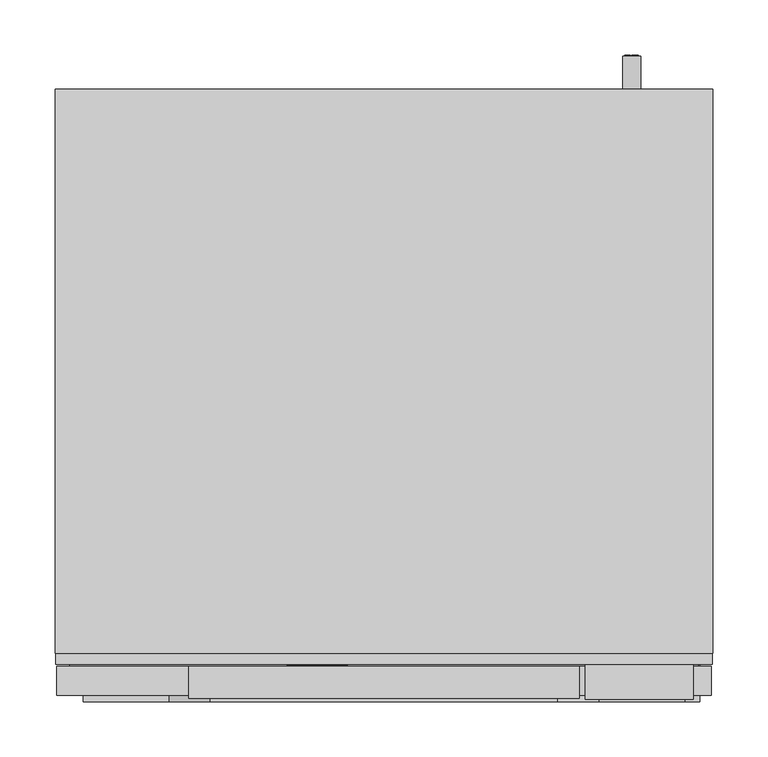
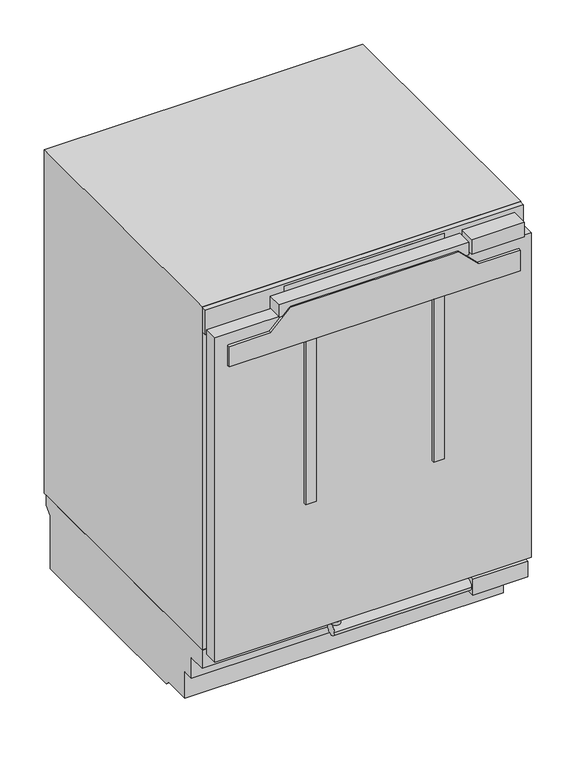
"""IFC4 building model written with IfcOpenShell, lengths in millimetres: proxy geometry, 12519130_EU1_KU7035D : 36703510_EU1_12519130_KU7035D."""

from ifc_helpers import new_model, si_unit, point, frame, frame_2d, origin, origin_with_axes, place, context, project, spatial, polyline, circle_curve, ellipse_curve, trimmed, segment, composite_curve, outline, extrude, faceted_brep, source, transform, mapped, element, save
from ifc_brep_helpers import plane_surface, cylinder_surface, revolved_surface, extruded_surface, advanced_brep


def specialty_equipment_a0025fa9(model_context):
    return source(origin(), model_context, "Body", "SolidModel", [
        extrude(outline(polyline([(795.9349293, -88.017), (795.9349293, -86.928), (789.9139293, -86.928), (789.9139293, -88.017), (788.4019293, -88.017), (788.4019293, -84.057), (789.9139293, -84.057), (789.9139293, -85.137), (793.7360541, -85.137), (788.4019293, -81.114), (793.8421516, -77.073), (789.9139293, -77.073), (789.9139293, -78.18), (788.4019293, -78.18), (788.4019293, -70.998), (789.9139293, -70.998), (789.9139293, -72.141), (795.9349293, -72.141), (795.9349293, -70.998), (797.4019293, -70.998), (797.4019293, -76.479), (794.0269293, -79.107), (797.4019293, -81.744), (797.4019293, -88.017), (795.9349293, -88.017)])), frame((0.0, 33.1, 0.0), z_axis=(0.0, 1.0, 0.0), x_axis=(0.0, 0.0, 1.0)), (0.0, 0.0, 1.0), 1.0),
        extrude(outline(polyline([(795.9349293, -51.495), (795.9349293, -50.415), (789.9139293, -50.415), (789.9139293, -51.495), (788.4019293, -51.495), (788.4019293, -44.196), (789.9139293, -44.196), (789.9139293, -45.303), (797.4019293, -45.303), (797.4019293, -51.495), (795.9349293, -51.495)])), frame((0.0, 33.1, 0.0), z_axis=(0.0, 1.0, 0.0), x_axis=(0.0, 0.0, 1.0)), (0.0, 0.0, 1.0), 1.0),
        extrude(outline(polyline([(796.8709293, -67.857), (795.4129293, -67.173), (796.8349293, -64.122), (798.2929293, -64.797), (796.8709293, -67.857)])), frame((0.0, 33.1, 0.0), z_axis=(0.0, 1.0, 0.0), x_axis=(0.0, 0.0, 1.0)), (0.0, 0.0, 1.0), 1.0),
        extrude(outline(polyline([(795.2149293, -70.08), (793.6039293, -70.08), (793.6039293, -69.009), (789.9139293, -69.009), (789.9139293, -70.08), (788.4019293, -70.08), (788.4019293, -62.979), (789.9139293, -62.979), (789.9139293, -64.023), (795.2149293, -64.023), (795.2149293, -70.08)])), frame((0.0, 33.1, 0.0), z_axis=(0.0, 1.0, 0.0), x_axis=(0.0, 0.0, 1.0)), (0.0, 0.0, 1.0), 1.0),
        advanced_brep(
        [(-58.02, 33.1, 790.5349293), (-58.02, 33.1, 791.4439293), (-51.999, 33.1, 791.4439293), (-62.475, 33.1, 791.4439293), (-60.0, 33.1, 788.4019293), (-52.152, 33.1, 790.5349293), (-54.87, 33.1, 790.5349293), (-57.012, 33.1, 789.5269293), (-58.02, 33.1, 792.5959293), (-58.02, 33.1, 793.5769293), (-56.481, 33.1, 793.5769293), (-56.481, 33.1, 792.5959293), (-58.02, 34.1, 790.5349293), (-57.012, 34.1, 789.5269293), (-54.87, 34.1, 790.5349293), (-52.152, 34.1, 790.5349293), (-60.0, 34.1, 788.4019293), (-62.475, 34.1, 791.4439293), (-51.999, 34.1, 791.4439293), (-58.02, 34.1, 791.4439293), (-58.02, 34.1, 792.5959293), (-56.481, 34.1, 792.5959293), (-56.481, 34.1, 793.5769293), (-58.02, 34.1, 793.5769293)],
        [
            (0, 1),
            (1, 2),
            (2, 3, ellipse_curve(frame((-57.237, 33.1, 791.4439293), z_axis=(0.0, -1.0, 0.0), x_axis=(-1.0, 0.0, 0.0)), 5.238, 4.329)),
            (3, 4, circle_curve(frame((-58.9919509, 33.1, 791.7499293), z_axis=(0.0, -1.0, 0.0), x_axis=(0.0, 0.0, -1.0)), 3.4964649)),
            (4, 5, circle_curve(frame((-57.3418572, 33.1, 794.1259293), z_axis=(0.0, -1.0, 0.0), x_axis=(0.0, 0.0, -1.0)), 6.3110933)),
            (5, 6),
            (6, 7, circle_curve(frame((-56.5720588, 33.1, 791.3719293), z_axis=(0.0, 1.0, 0.0), x_axis=(0.0, 0.0, -1.0)), 1.896727)),
            (7, 0, circle_curve(frame((-57.012, 33.1, 790.5349293), z_axis=(0.0, 1.0, 0.0), x_axis=(0.0, 0.0, -1.0)), 1.008)),
            (8, 9),
            (9, 10, circle_curve(frame((-57.2505, 33.1, 793.5769293), z_axis=(0.0, 1.0, 0.0), x_axis=(0.0, 0.0, -1.0)), 0.7695)),
            (10, 11),
            (11, 8),
            (12, 13, circle_curve(frame((-57.012, 34.1, 790.5349293), z_axis=(0.0, -1.0, 0.0), x_axis=(0.0, 0.0, -1.0)), 1.008)),
            (13, 14, circle_curve(frame((-56.5720588, 34.1, 791.3719293), z_axis=(0.0, -1.0, 0.0), x_axis=(0.0, 0.0, -1.0)), 1.896727)),
            (14, 15),
            (15, 16, circle_curve(frame((-57.3418572, 34.1, 794.1259293), z_axis=(0.0, 1.0, 0.0), x_axis=(0.0, 0.0, -1.0)), 6.3110933)),
            (16, 17, circle_curve(frame((-58.9919509, 34.1, 791.7499293), z_axis=(0.0, 1.0, 0.0), x_axis=(0.0, 0.0, -1.0)), 3.4964649)),
            (17, 18, ellipse_curve(frame((-57.237, 34.1, 791.4439293), z_axis=(0.0, 1.0, 0.0), x_axis=(-1.0, 0.0, 0.0)), 5.238, 4.329)),
            (18, 19),
            (19, 12),
            (20, 21),
            (21, 22),
            (22, 23, circle_curve(frame((-57.2505, 34.1, 793.5769293), z_axis=(0.0, -1.0, 0.0), x_axis=(0.0, 0.0, -1.0)), 0.7695)),
            (23, 20),
            (0, 12),
            (19, 1),
            (18, 2),
            (5, 15),
            (14, 6),
            (17, 3),
            (13, 7),
            (16, 4),
            (8, 20),
            (23, 9),
            (22, 10),
            (21, 11),
        ],
        [
            plane_surface(frame((-58.02, 33.1, 791.4439293), z_axis=(0.0, -1.0, 0.0), x_axis=(0.0, 0.0, 1.0))),
            plane_surface(frame((-58.02, 34.1, 791.4439293), z_axis=(0.0, 1.0, 0.0), x_axis=(0.0, 0.0, -1.0))),
            plane_surface(frame((-58.02, 33.1, 790.5349293), z_axis=(1.0, 0.0, 0.0), x_axis=(0.0, 1.0, 0.0))),
            plane_surface(frame((-58.02, 33.1, 791.4439293), z_axis=(0.0, 0.0, -1.0), x_axis=(0.0, 1.0, 0.0))),
            plane_surface(frame((-52.152, 33.1, 790.5349293), z_axis=(0.0, 0.0, 1.0), x_axis=(0.0, 1.0, 0.0))),
            extruded_surface(trimmed(ellipse_curve(frame((-57.237, 35.1, 791.4439293), z_axis=(0.0, -1.0, 0.0), x_axis=(-1.0, 0.0, 0.0)), 5.238, 4.329), [point((-51.999, 35.1, 791.4439293))], [point((-62.475, 35.1, 791.4439293))], True, "CARTESIAN"), (0.0, -1.0, 0.0), 1.0),
            revolved_surface(polyline([(-56.5720588, 34.1, 789.4752023), (-56.5720588, 33.1, 789.4752023)]), (-56.5720588, 34.1, 791.3719293), (0.0, 1.0, 0.0)),
            revolved_surface(polyline([(-57.012, 34.1, 789.5269293), (-57.012, 33.1, 789.5269293)]), (-57.012, 34.1, 790.5349293), (0.0, 1.0, 0.0)),
            cylinder_surface(frame((-58.9919509, 34.1, 791.7499293), z_axis=(0.0, -1.0, 0.0), x_axis=(0.0, 0.0, -1.0)), 3.4964649),
            cylinder_surface(frame((-57.3418572, 34.1, 794.1259293), z_axis=(0.0, -1.0, 0.0), x_axis=(0.0, 0.0, -1.0)), 6.3110933),
            plane_surface(frame((-58.02, 33.1, 792.5959293), z_axis=(1.0, 0.0, 0.0), x_axis=(0.0, 1.0, 0.0))),
            revolved_surface(polyline([(-57.2505, 34.1, 792.8074293), (-57.2505, 33.1, 792.8074293)]), (-57.2505, 34.1, 793.5769293), (0.0, 1.0, 0.0)),
            plane_surface(frame((-56.481, 33.1, 793.5769293), z_axis=(-1.0, 0.0, 0.0), x_axis=(0.0, 1.0, 0.0))),
            plane_surface(frame((-56.481, 33.1, 792.5959293), z_axis=(0.0, 0.0, 1.0), x_axis=(0.0, 1.0, 0.0))),
        ],
        [
            (0, [[1, 2, 3, 4, 5, 6, 7, 8], [9, 10, 11, 12]]),
            (1, [[13, 14, 15, 16, 17, 18, 19, 20], [21, 22, 23, 24]]),
            (2, [[-1, 25, -20, 26]]),
            (3, [[-2, -26, -19, 27]]),
            (4, [[-6, 28, -15, 29]]),
            (5, [[-3, -27, -18, 30]]),
            (6, [[-7, -29, -14, 31]]),
            (7, [[-8, -31, -13, -25]]),
            (8, [[-4, -30, -17, 32]]),
            (9, [[-5, -32, -16, -28]]),
            (10, [[-9, 33, -24, 34]]),
            (11, [[-10, -34, -23, 35]]),
            (12, [[-11, -35, -22, 36]]),
            (13, [[-12, -36, -21, -33]]),
        ],
    ),
        advanced_brep(
        [(-39.237, 33.1, 790.5349293), (-39.237, 33.1, 791.4439293), (-33.216, 33.1, 791.4439293), (-43.692, 33.1, 791.4439293), (-41.217, 33.1, 788.4019293), (-33.369, 33.1, 790.5349293), (-36.087, 33.1, 790.5349293), (-38.229, 33.1, 789.5269293), (-39.237, 33.1, 792.5959293), (-39.237, 33.1, 793.5769293), (-37.698, 33.1, 793.5769293), (-37.698, 33.1, 792.5959293), (-39.237, 34.1, 790.5349293), (-38.229, 34.1, 789.5269293), (-36.087, 34.1, 790.5349293), (-33.369, 34.1, 790.5349293), (-41.217, 34.1, 788.4019293), (-43.692, 34.1, 791.4439293), (-33.216, 34.1, 791.4439293), (-39.237, 34.1, 791.4439293), (-39.237, 34.1, 792.5959293), (-37.698, 34.1, 792.5959293), (-37.698, 34.1, 793.5769293), (-39.237, 34.1, 793.5769293)],
        [
            (0, 1),
            (1, 2),
            (2, 3, ellipse_curve(frame((-38.454, 33.1, 791.4439293), z_axis=(0.0, -1.0, 0.0), x_axis=(-1.0, 0.0, 0.0)), 5.238, 4.329)),
            (3, 4, circle_curve(frame((-40.2089509, 33.1, 791.7499293), z_axis=(0.0, -1.0, 0.0), x_axis=(0.0, 0.0, -1.0)), 3.4964649)),
            (4, 5, circle_curve(frame((-38.5588572, 33.1, 794.1259293), z_axis=(0.0, -1.0, 0.0), x_axis=(0.0, 0.0, -1.0)), 6.3110933)),
            (5, 6),
            (6, 7, circle_curve(frame((-37.7890588, 33.1, 791.3719293), z_axis=(0.0, 1.0, 0.0), x_axis=(0.0, 0.0, -1.0)), 1.896727)),
            (7, 0, circle_curve(frame((-38.229, 33.1, 790.5349293), z_axis=(0.0, 1.0, 0.0), x_axis=(0.0, 0.0, -1.0)), 1.008)),
            (8, 9),
            (9, 10, circle_curve(frame((-38.4675, 33.1, 793.5769293), z_axis=(0.0, 1.0, 0.0), x_axis=(0.0, 0.0, -1.0)), 0.7695)),
            (10, 11),
            (11, 8),
            (12, 13, circle_curve(frame((-38.229, 34.1, 790.5349293), z_axis=(0.0, -1.0, 0.0), x_axis=(0.0, 0.0, -1.0)), 1.008)),
            (13, 14, circle_curve(frame((-37.7890588, 34.1, 791.3719293), z_axis=(0.0, -1.0, 0.0), x_axis=(0.0, 0.0, -1.0)), 1.896727)),
            (14, 15),
            (15, 16, circle_curve(frame((-38.5588572, 34.1, 794.1259293), z_axis=(0.0, 1.0, 0.0), x_axis=(0.0, 0.0, -1.0)), 6.3110933)),
            (16, 17, circle_curve(frame((-40.2089509, 34.1, 791.7499293), z_axis=(0.0, 1.0, 0.0), x_axis=(0.0, 0.0, -1.0)), 3.4964649)),
            (17, 18, ellipse_curve(frame((-38.454, 34.1, 791.4439293), z_axis=(0.0, 1.0, 0.0), x_axis=(-1.0, 0.0, 0.0)), 5.238, 4.329)),
            (18, 19),
            (19, 12),
            (20, 21),
            (21, 22),
            (22, 23, circle_curve(frame((-38.4675, 34.1, 793.5769293), z_axis=(0.0, -1.0, 0.0), x_axis=(0.0, 0.0, -1.0)), 0.7695)),
            (23, 20),
            (0, 12),
            (19, 1),
            (18, 2),
            (5, 15),
            (14, 6),
            (17, 3),
            (13, 7),
            (16, 4),
            (8, 20),
            (23, 9),
            (22, 10),
            (21, 11),
        ],
        [
            plane_surface(frame((-39.237, 33.1, 791.4439293), z_axis=(0.0, -1.0, 0.0), x_axis=(0.0, 0.0, 1.0))),
            plane_surface(frame((-39.237, 34.1, 791.4439293), z_axis=(0.0, 1.0, 0.0), x_axis=(0.0, 0.0, -1.0))),
            plane_surface(frame((-39.237, 33.1, 790.5349293), z_axis=(1.0, 0.0, 0.0), x_axis=(0.0, 1.0, 0.0))),
            plane_surface(frame((-39.237, 33.1, 791.4439293), z_axis=(0.0, 0.0, -1.0), x_axis=(0.0, 1.0, 0.0))),
            plane_surface(frame((-33.369, 33.1, 790.5349293), z_axis=(0.0, 0.0, 1.0), x_axis=(0.0, 1.0, 0.0))),
            extruded_surface(trimmed(ellipse_curve(frame((-38.454, 35.1, 791.4439293), z_axis=(0.0, -1.0, 0.0), x_axis=(-1.0, 0.0, 0.0)), 5.238, 4.329), [point((-33.216, 35.1, 791.4439293))], [point((-43.692, 35.1, 791.4439293))], True, "CARTESIAN"), (0.0, -1.0, 0.0), 1.0),
            revolved_surface(polyline([(-37.7890588, 34.1, 789.4752023), (-37.7890588, 33.1, 789.4752023)]), (-37.7890588, 34.1, 791.3719293), (0.0, 1.0, 0.0)),
            revolved_surface(polyline([(-38.229, 34.1, 789.5269293), (-38.229, 33.1, 789.5269293)]), (-38.229, 34.1, 790.5349293), (0.0, 1.0, 0.0)),
            cylinder_surface(frame((-40.2089509, 34.1, 791.7499293), z_axis=(0.0, -1.0, 0.0), x_axis=(0.0, 0.0, -1.0)), 3.4964649),
            cylinder_surface(frame((-38.5588572, 34.1, 794.1259293), z_axis=(0.0, -1.0, 0.0), x_axis=(0.0, 0.0, -1.0)), 6.3110933),
            plane_surface(frame((-39.237, 33.1, 792.5959293), z_axis=(1.0, 0.0, 0.0), x_axis=(0.0, 1.0, 0.0))),
            revolved_surface(polyline([(-38.4675, 34.1, 792.8074293), (-38.4675, 33.1, 792.8074293)]), (-38.4675, 34.1, 793.5769293), (0.0, 1.0, 0.0)),
            plane_surface(frame((-37.698, 33.1, 793.5769293), z_axis=(-1.0, 0.0, 0.0), x_axis=(0.0, 1.0, 0.0))),
            plane_surface(frame((-37.698, 33.1, 792.5959293), z_axis=(0.0, 0.0, 1.0), x_axis=(0.0, 1.0, 0.0))),
        ],
        [
            (0, [[1, 2, 3, 4, 5, 6, 7, 8], [9, 10, 11, 12]]),
            (1, [[13, 14, 15, 16, 17, 18, 19, 20], [21, 22, 23, 24]]),
            (2, [[-1, 25, -20, 26]]),
            (3, [[-2, -26, -19, 27]]),
            (4, [[-6, 28, -15, 29]]),
            (5, [[-3, -27, -18, 30]]),
            (6, [[-7, -29, -14, 31]]),
            (7, [[-8, -31, -13, -25]]),
            (8, [[-4, -30, -17, 32]]),
            (9, [[-5, -32, -16, -28]]),
            (10, [[-9, 33, -24, 34]]),
            (11, [[-10, -34, -23, 35]]),
            (12, [[-11, -35, -22, 36]]),
            (13, [[-12, -36, -21, -33]]),
        ],
    ),
        extrude(outline(polyline([(150.0048218, 34.0937347), (-150.0048218, 34.0937347), (-150.0048218, 44.0), (150.0048218, 44.0), (150.0048218, 34.0937347)])), frame((0.0, 0.0, 773.2139282), z_axis=(0.0, 0.0, 1.0), x_axis=(1.0, 0.0, 0.0)), (0.0, 0.0, 1.0), 39.9850464),
        extrude(outline(polyline([(817.6989746, 298.0), (817.6989746, -298.0), (768.7051238, -298.0), (768.7051238, 298.0), (817.6989746, 298.0)]), holes=[polyline([(813.1989746, -150.0048218), (813.1989746, 150.0048218), (773.2139282, 150.0048218), (773.2139282, -150.0048218), (813.1989746, -150.0048218)])]), frame((0.0, 34.0937347, 0.0), z_axis=(0.0, 1.0, 0.0), x_axis=(0.0, 0.0, 1.0)), (0.0, 0.0, 1.0), 9.9062653),
        faceted_brep([(-298.5, 550.1, 137.8999939), (-298.5, 550.1, 117.6051112), (-298.5, 537.6, 105.1051112), (-298.5, 537.6, 0.0), (-298.5, 161.2567793, 0.0), (-298.5, 152.9391747, 8.3176046), (-298.5, 100.0, 8.3176046), (-298.5, 100.0, 60.7725754), (-298.5, 79.0216446, 60.7725754), (-298.5, 79.0216446, 101.8184894), (-298.5, 44.0, 101.8184894), (-298.5, 44.0, 137.8999939), (298.5, 550.1, 137.8999939), (298.5, 44.0, 137.8999939), (298.5, 44.0, 101.8184894), (298.5, 79.0216446, 101.8184894), (298.5, 79.0216446, 60.7725754), (298.5, 100.0, 60.7725754), (298.5, 100.0, 8.3176046), (298.5, 152.9391747, 8.3176046), (298.5, 161.2567793, 0.0), (298.5, 537.6, 0.0), (298.5, 537.6, 105.1051112), (298.5, 550.1, 117.6051112), (296.7000122, 463.8596389, 0.0), (256.5957336, 463.8596389, 0.0), (256.5957336, 399.1975098, 0.0), (296.7000122, 399.1975098, 0.0), (-296.7000122, 463.8596389, 0.0), (-296.7000122, 399.1975098, 0.0), (-256.5957336, 399.1975098, 0.0), (-256.5957336, 463.8596389, 0.0), (296.7000122, 463.8596389, 8.7371401), (296.7000122, 399.1975098, 8.7371401), (256.5957336, 399.1975098, 8.7371401), (256.5957336, 463.8596389, 8.7371401), (-296.7000122, 463.8596389, 8.7371401), (-256.5957336, 463.8596389, 8.7371401), (-256.5957336, 399.1975098, 8.7371401), (-296.7000122, 399.1975098, 8.7371401)], [[[0, 1, 2, 3, 4, 5, 6, 7, 8, 9, 10, 11]], [[12, 13, 14, 15, 16, 17, 18, 19, 20, 21, 22, 23]], [[0, 11, 13, 12]], [[11, 10, 14, 13]], [[10, 9, 15, 14]], [[9, 8, 16, 15]], [[8, 7, 17, 16]], [[7, 6, 18, 17]], [[6, 5, 19, 18]], [[5, 4, 20, 19]], [[4, 3, 21, 20], [24, 25, 26, 27], [28, 29, 30, 31]], [[3, 2, 22, 21]], [[2, 1, 23, 22]], [[1, 0, 12, 23]], [[32, 33, 34, 35]], [[36, 37, 38, 39]], [[32, 35, 25, 24]], [[35, 34, 26, 25]], [[34, 33, 27, 26]], [[33, 32, 24, 27]], [[36, 39, 29, 28]], [[39, 38, 30, 29]], [[38, 37, 31, 30]], [[37, 36, 28, 31]]]),
        faceted_brep([(298.5, 44.0, 819.0), (298.5, 44.0, 137.8999939), (298.5, 556.2, 137.8999939), (298.5, 556.2, 819.0), (-298.5, 44.0, 819.0), (-298.5, 556.2, 819.0), (-298.5, 556.2, 137.8999939), (-298.5, 44.0, 137.8999939), (263.0, 44.0, 719.0), (263.0, 44.0, 150.0), (-263.0, 44.0, 150.0), (-263.0, 44.0, 719.0), (263.0, 510.8638012, 150.0), (263.0, 510.8638012, 719.0), (-263.0, 510.8638012, 719.0), (-263.0, 510.8638012, 150.0)], [[[0, 1, 2, 3]], [[4, 5, 6, 7]], [[1, 0, 4, 7], [8, 9, 10, 11]], [[2, 1, 7, 6]], [[3, 2, 6, 5]], [[0, 3, 5, 4]], [[12, 13, 14, 15]], [[13, 12, 9, 8]], [[14, 13, 8, 11]], [[15, 14, 11, 10]], [[12, 15, 10, 9]]]),
        extrude(outline(polyline([(263.0, 510.8638012), (263.0, 339.3), (-263.0, 339.3), (-263.0, 510.8638012), (263.0, 510.8638012)])), frame((0.0, 0.0, 150.0), z_axis=(0.0, 0.0, 1.0), x_axis=(1.0, 0.0, 0.0)), (0.0, 0.0, 1.0), 71.8999939),
        extrude(outline(composite_curve([segment(trimmed(circle_curve(frame_2d((-270.8532135, 136.0)), 15.7049948), [point((-286.5582083, 136.0))], [point((-255.1482187, 136.0))], False, "CARTESIAN"), True, "CONTINUOUS"), segment(trimmed(circle_curve(frame_2d((-270.8532135, 136.0)), 15.7049948), [point((-255.1482187, 136.0))], [point((-286.5582083, 136.0))], False, "CARTESIAN"), True, "CONTINUOUS")], self_intersect=False)), origin_with_axes(), (0.0, 0.0, 1.0), 8.3176046),
        extrude(outline(composite_curve([segment(trimmed(circle_curve(frame_2d((270.8532135, 136.0)), 15.7049948), [point((286.5582083, 136.0))], [point((255.1482187, 136.0))], False, "CARTESIAN"), True, "CONTINUOUS"), segment(trimmed(circle_curve(frame_2d((270.8532135, 136.0)), 15.7049948), [point((255.1482187, 136.0))], [point((286.5582083, 136.0))], False, "CARTESIAN"), True, "CONTINUOUS")], self_intersect=False)), origin_with_axes(), (0.0, 0.0, 1.0), 8.3176046),
        extrude(outline(composite_curve([segment(trimmed(circle_curve(frame_2d((-275.822369, 437.7)), 16.0), [point((-291.822369, 437.7))], [point((-259.822369, 437.7))], False, "CARTESIAN"), True, "CONTINUOUS"), segment(trimmed(circle_curve(frame_2d((-275.822369, 437.7)), 16.0), [point((-259.822369, 437.7))], [point((-291.822369, 437.7))], False, "CARTESIAN"), True, "CONTINUOUS")], self_intersect=False)), origin_with_axes(), (0.0, 0.0, 1.0), 8.3176046),
        extrude(outline(composite_curve([segment(trimmed(circle_curve(frame_2d((275.822369, 437.7)), 16.0), [point((259.822369, 437.7))], [point((291.822369, 437.7))], False, "CARTESIAN"), True, "CONTINUOUS"), segment(trimmed(circle_curve(frame_2d((275.822369, 437.7)), 16.0), [point((291.822369, 437.7))], [point((259.822369, 437.7))], False, "CARTESIAN"), True, "CONTINUOUS")], self_intersect=False)), origin_with_axes(), (0.0, 0.0, 1.0), 8.3176046),
        extrude(outline(composite_curve([segment(trimmed(circle_curve(frame_2d((144.2460785, 224.8152695)), 8.0), [point((144.2460785, 216.8152695))], [point((144.2460785, 232.8152695))], False, "CARTESIAN"), True, "CONTINUOUS"), segment(trimmed(circle_curve(frame_2d((144.2460785, 224.8152695)), 8.0), [point((144.2460785, 232.8152695))], [point((144.2460785, 216.8152695))], False, "CARTESIAN"), True, "CONTINUOUS")], self_intersect=False)), frame((0.0, 556.2, 0.0), z_axis=(0.0, 1.0, 0.0), x_axis=(0.0, 0.0, 1.0)), (0.0, 0.0, 1.0), 30.0),
        extrude(outline(polyline([(140.2460785, 230.7170777), (148.2825833, 230.7170777), (148.2825833, 224.9408399), (147.2780202, 224.9408399), (147.2780202, 229.7125146), (144.8921828, 229.7125146), (144.8921828, 225.1919806), (143.8876197, 225.1919806), (143.8876197, 229.7125146), (141.2506416, 229.7125146), (141.2506416, 224.8152695), (140.2460785, 224.8152695), (140.2460785, 230.7170777)])), frame((0.0, 586.2, 0.0), z_axis=(0.0, 1.0, 0.0), x_axis=(0.0, 0.0, 1.0)), (0.0, 0.0, 1.0), 1.0),
        extrude(outline(polyline([(140.2460785, 223.3084248), (148.2825833, 223.3084248), (148.2825833, 222.3038617), (141.2506416, 222.3038617), (141.2506416, 218.2856093), (140.2460785, 218.2856093), (140.2460785, 223.3084248)])), frame((0.0, 586.2, 0.0), z_axis=(0.0, 1.0, 0.0), x_axis=(0.0, 0.0, 1.0)), (0.0, 0.0, 1.0), 1.0),
        extrude(outline(polyline([(280.7999573, 2.0229698), (182.5283813, 2.0229698), (182.5283813, 44.0), (280.7999573, 44.0), (280.7999573, 2.0229698)])), frame((0.0, 0.0, 780.0), z_axis=(0.0, 0.0, 1.0), x_axis=(1.0, 0.0, 0.0)), (0.0, 0.0, 1.0), 28.7067261),
        extrude(outline(polyline([(297.0, 6.0), (-297.0, 6.0), (-297.0, 32.0), (297.0, 32.0), (297.0, 6.0)])), frame((0.0, 0.0, 136.0), z_axis=(0.0, 0.0, 1.0), x_axis=(1.0, 0.0, 0.0)), (0.0, 0.0, 1.0), 644.0),
        extrude(outline(polyline([(285.0, 44.0), (285.0, 32.0), (-285.0, 32.0), (-285.0, 44.0), (285.0, 44.0)])), frame((0.0, 0.0, 148.5030441), z_axis=(0.0, 0.0, 1.0), x_axis=(1.0, 0.0, 0.0)), (0.0, 0.0, 1.0), 615.9969559),
        extrude(outline(polyline([(804.6210938, 177.3252429), (804.6210938, -177.3251393), (780.0, -177.3252429), (780.0, 177.3252429), (804.6210938, 177.3252429)])), frame((0.0, 3.0, 0.0), z_axis=(0.0, 1.0, 0.0), x_axis=(0.0, 0.0, 1.0)), (0.0, 0.0, 1.0), 29.0),
        extrude(outline(composite_curve([segment(trimmed(circle_curve(frame_2d((14.2130013, 118.3500061)), 10.647874), [point((3.5651273, 118.3500061))], [point((24.8608752, 118.3500061))], False, "CARTESIAN"), True, "CONTINUOUS"), segment(trimmed(circle_curve(frame_2d((14.2130013, 118.3500061)), 10.647874), [point((24.8608752, 118.3500061))], [point((3.5651273, 118.3500061))], False, "CARTESIAN"), True, "CONTINUOUS")], self_intersect=False)), frame((-73.8137398, 0.0, 0.0), z_axis=(1.0, 0.0, 0.0), x_axis=(0.0, 1.0, 0.0)), (0.0, 0.0, 1.0), 257.1515813),
        extrude(outline(composite_curve([segment(trimmed(circle_curve(frame_2d((-65.2000504, 14.2130013)), 8.0), [point((-73.2000504, 14.2130013))], [point((-57.2000504, 14.2130013))], False, "CARTESIAN"), True, "CONTINUOUS"), segment(trimmed(circle_curve(frame_2d((-65.2000504, 14.2130013)), 8.0), [point((-57.2000504, 14.2130013))], [point((-73.2000504, 14.2130013))], False, "CARTESIAN"), True, "CONTINUOUS")], self_intersect=False)), frame((0.0, 0.0, 128.9978801), z_axis=(0.0, 0.0, 1.0), x_axis=(1.0, 0.0, 0.0)), (0.0, 0.0, 1.0), 7.0021199),
        extrude(outline(polyline([(286.7815857, 0.0), (183.3378415, 0.0), (183.3378415, 44.0), (286.7815857, 44.0), (286.7815857, 0.0)])), frame((0.0, 0.0, 104.8), z_axis=(0.0, 0.0, 1.0), x_axis=(1.0, 0.0, 0.0)), (0.0, 0.0, 1.0), 31.2),
        extrude(outline(polyline([(757.315066, -195.1876874), (757.315066, -272.9755319), (716.8499888, -272.9755319), (716.8499888, 272.9755319), (757.315066, 272.9755319), (757.315066, 195.1876874), (794.938205, 157.5645484), (794.938205, -157.5645484), (757.315066, -195.1876874)])), frame((0.0, 0.0, 0.0), z_axis=(0.0, 1.0, 0.0), x_axis=(0.0, 0.0, 1.0)), (0.0, 0.0, 1.0), 6.0),
        extrude(outline(polyline([(-110.0, 0.0), (-130.0, 0.0), (-130.0, 6.0), (-110.0, 6.0), (-110.0, 0.0)])), frame((0.0, 0.0, 394.1054382), z_axis=(0.0, 0.0, 1.0), x_axis=(1.0, 0.0, 0.0)), (0.0, 0.0, 1.0), 322.7445505),
        extrude(outline(polyline([(130.0, 0.0), (110.0, 0.0), (110.0, 6.0), (130.0, 6.0), (130.0, 0.0)])), frame((0.0, 0.0, 394.1054382), z_axis=(0.0, 0.0, 1.0), x_axis=(1.0, 0.0, 0.0)), (0.0, 0.0, 1.0), 322.7445505),
    ])


if __name__ == "__main__":
    model = new_model("IFC4")
    model_context = context("Model", 3, world=origin())
    ifc_project = project(units=[si_unit("LENGTHUNIT", "METRE", prefix="MILLI")], contexts=[model_context])
    site = spatial("IfcSite", under=ifc_project)
    building = spatial("IfcBuilding", under=site)
    placement = place(None, origin())
    specialty_equipment_shape = specialty_equipment_a0025fa9(model_context)
    element("IfcBuildingElementProxy", 1, Name="12519130_EU1_KU7035D : 36703510_EU1_12519130_KU7035D", ObjectType="12519130_EU1_KU7035D : 36703510_EU1_12519130_KU7035D", at=placement, inside=building, context=model_context, shape_type="MappedRepresentation", body=[
        mapped(specialty_equipment_shape, transform((0.0, 0.0, 0.0), x_axis=(1.0, 0.0, 0.0), y_axis=(0.0, 1.0, 0.0), z_axis=(0.0, 0.0, 1.0))),
    ])
    save(model, "model.ifc")
